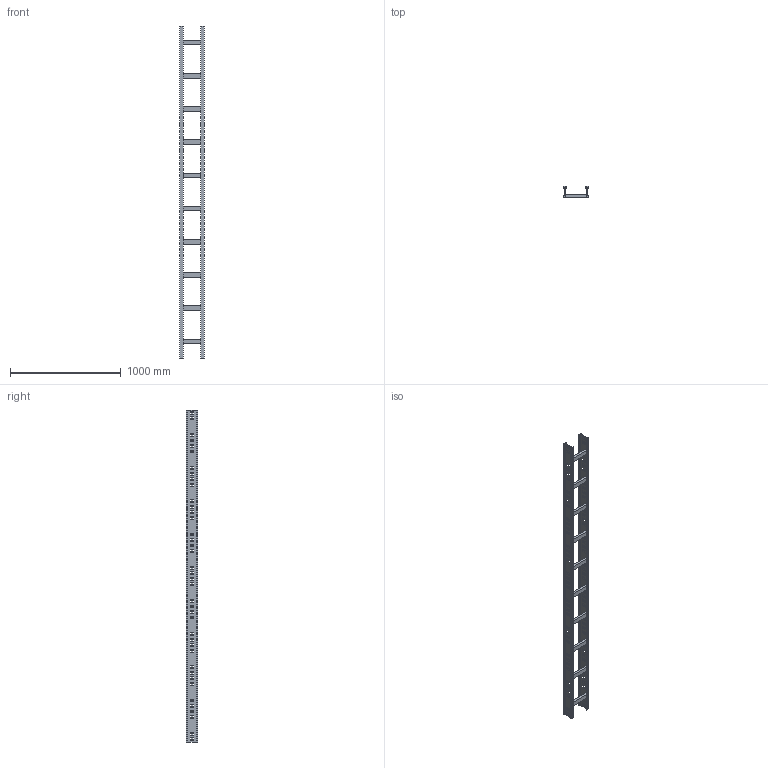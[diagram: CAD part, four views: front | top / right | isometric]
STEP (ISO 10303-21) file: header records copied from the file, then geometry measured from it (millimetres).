
FILE_DESCRIPTION (( 'STEP AP214' ), '1' );
FILE_NAME ('01S3D200.step', '2025-02-21T16:19:34', ( '' ), ( '' ), 'SwSTEP 2.0', 'SolidWorks 2023', '' );
FILE_SCHEMA (( 'AUTOMOTIVE_DESIGN' ));
Length unit declared in the file: millimetre
Products named in the file (3): TRAVERSINO_200; LONGH.H100; 01S3D200
Assembly tree (12 placements, depth 2):
  01S3D200
    LONGH.H100  x2
    TRAVERSINO_200  x10
Bounding box: 218 x 100 x 3000 mm (x, y, z)
Volume: 4723200 mm3; surface area: 1983011 mm2
Topology: 12 solids, 12 shells, 728 faces, 2112 edges, 1408 vertices
Faces by surface type: plane 728
Entity records: 11620 total; most frequent: CARTESIAN_POINT 2035, ORIENTED_EDGE 2016, DIRECTION 1718, LINE 1008, VECTOR 1008, EDGE_CURVE 1008, VERTEX_POINT 672, EDGE_LOOP 500
